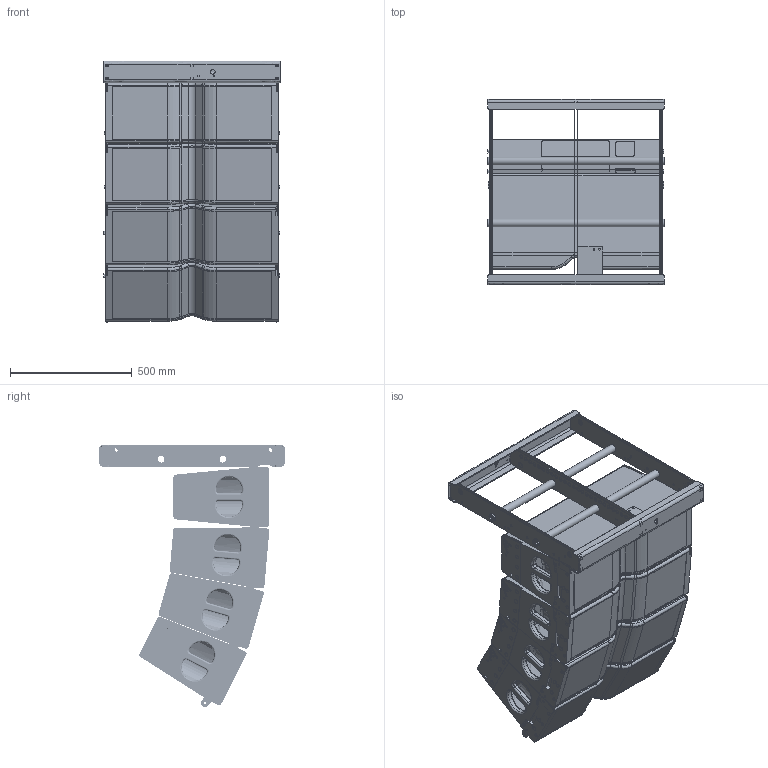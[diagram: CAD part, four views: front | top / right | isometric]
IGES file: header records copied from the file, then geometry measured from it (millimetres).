
Global section: file name: LA28 4 Box ARRAY v2; native system: unknown; preprocessor: unknown; author: unknown; organization: unknown; date: 20230121.233640; units: inch
Bounding box: 726.62 x 762 x 1077.52 mm (x, y, z)
Volume: 232883586.2 mm3; surface area: 6535348.5 mm2
Topology: 19 solids, 19 shells, 2305 faces, 6327 edges, 4252 vertices
Faces by surface type: bspline 2305
